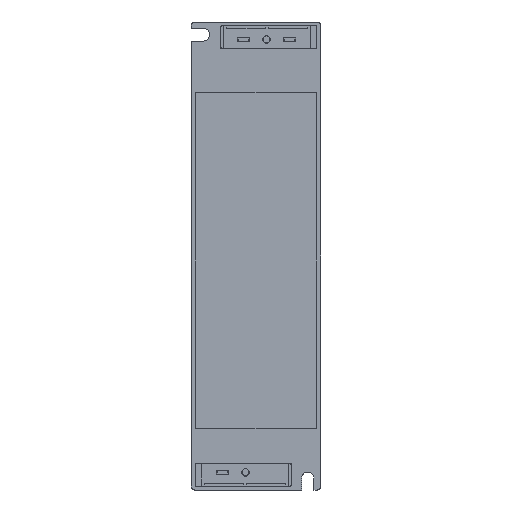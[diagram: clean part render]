
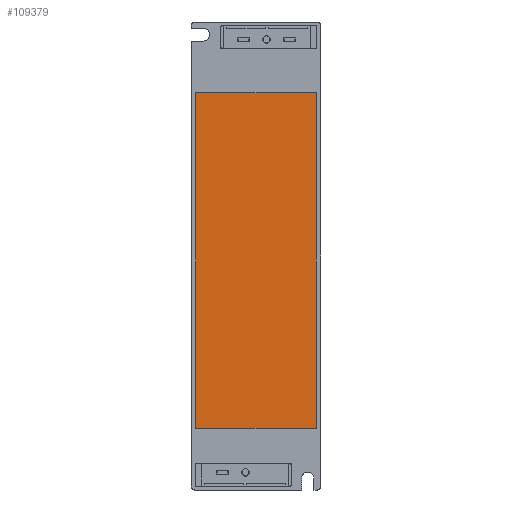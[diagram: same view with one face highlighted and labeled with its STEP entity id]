
A CAD part, front view. The second image highlights one B-rep face of the part: STEP entity #109379.
In plain terms, the highlighted planar face has unit normal (0, -1, 0) as drawn and (0, 0, -1) by its records, which use the part's own axes.
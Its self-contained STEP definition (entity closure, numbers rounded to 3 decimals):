
#78629=DIRECTION('',(0.,-1.,0.));
#78630=VECTOR('',#78629,111.8);
#78631=CARTESIAN_POINT('',(-20.1,57.4,0.));
#78632=LINE('',#78631,#78630);
#78636=DIRECTION('',(1.,0.,0.));
#78637=VECTOR('',#78636,40.2);
#78638=CARTESIAN_POINT('',(-20.1,-54.4,0.));
#78639=LINE('',#78638,#78637);
#78643=DIRECTION('',(0.,1.,0.));
#78644=VECTOR('',#78643,111.8);
#78645=CARTESIAN_POINT('',(20.1,-54.4,0.));
#78646=LINE('',#78645,#78644);
#78650=DIRECTION('',(-1.,0.,0.));
#78651=VECTOR('',#78650,40.2);
#78652=CARTESIAN_POINT('',(20.1,57.4,0.));
#78653=LINE('',#78652,#78651);
#104724=CARTESIAN_POINT('',(-20.1,57.4,0.));
#104725=CARTESIAN_POINT('',(-20.1,-54.4,0.));
#104726=VERTEX_POINT('',#104724);
#104727=VERTEX_POINT('',#104725);
#104728=CARTESIAN_POINT('',(20.1,-54.4,0.));
#104729=VERTEX_POINT('',#104728);
#104730=CARTESIAN_POINT('',(20.1,57.4,0.));
#104731=VERTEX_POINT('',#104730);
#109364=CARTESIAN_POINT('',(0.,0.,0.));
#109365=DIRECTION('',(0.,0.,1.));
#109366=DIRECTION('',(0.,1.,0.));
#109367=AXIS2_PLACEMENT_3D('',#109364,#109365,#109366);
#109368=PLANE('',#109367);
#109370=ORIENTED_EDGE('',*,*,#109369,.T.);
#109372=ORIENTED_EDGE('',*,*,#109371,.T.);
#109374=ORIENTED_EDGE('',*,*,#109373,.T.);
#109376=ORIENTED_EDGE('',*,*,#109375,.T.);
#109377=EDGE_LOOP('',(#109370,#109372,#109374,#109376));
#109378=FACE_OUTER_BOUND('',#109377,.F.);
#109379=ADVANCED_FACE('',(#109378),#109368,.F.);
#109369=EDGE_CURVE('',#104726,#104727,#78632,.T.);
#109371=EDGE_CURVE('',#104727,#104729,#78639,.T.);
#109373=EDGE_CURVE('',#104729,#104731,#78646,.T.);
#109375=EDGE_CURVE('',#104731,#104726,#78653,.T.);
